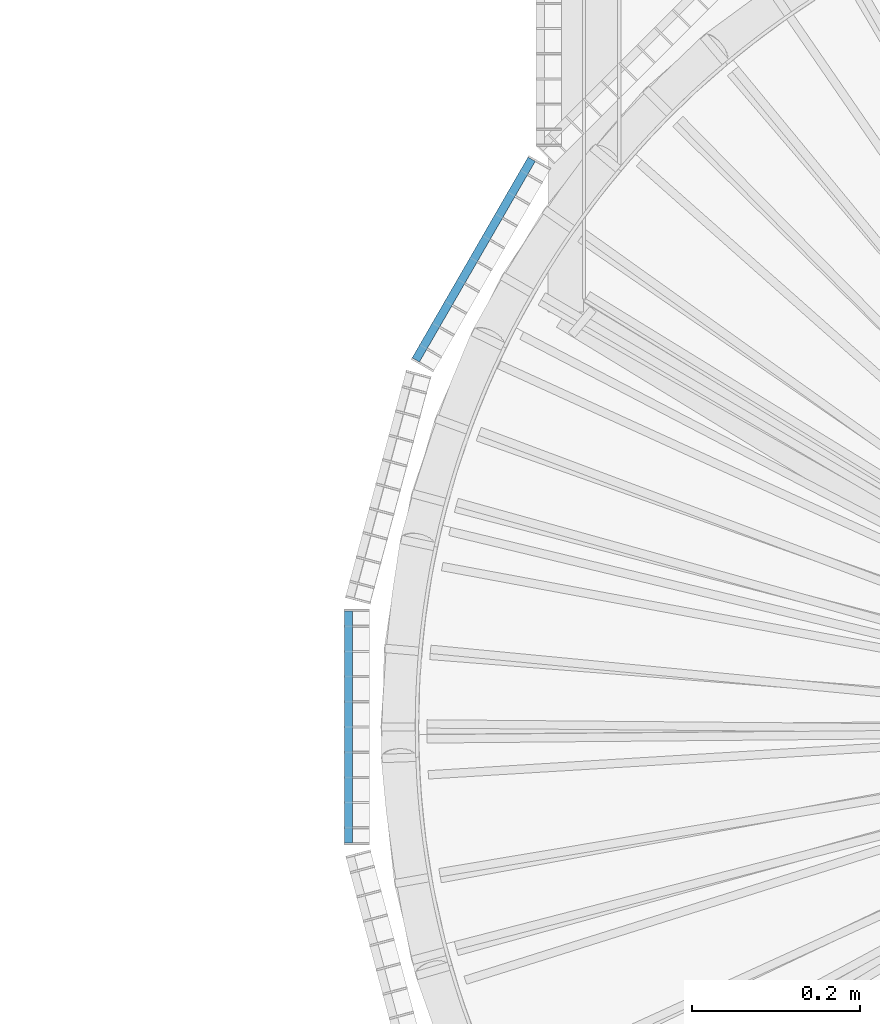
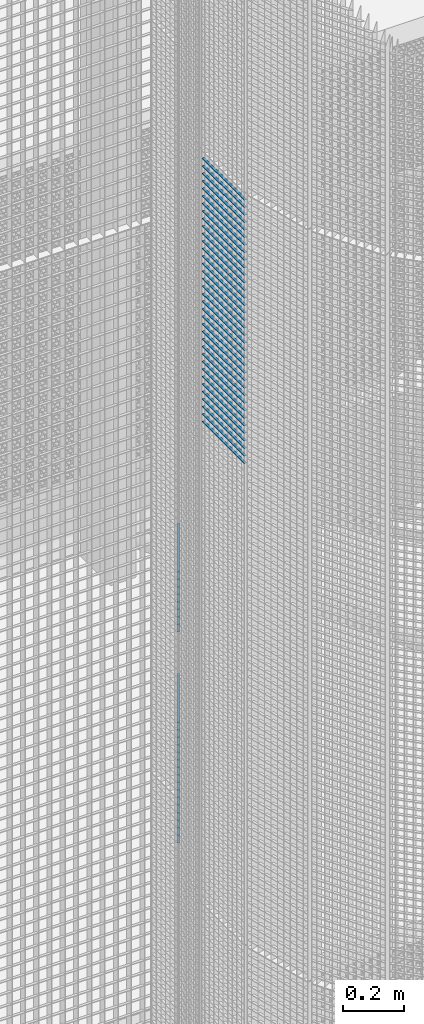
# One storey, part 199 of 1183: 62 beams, 2 elements without a shape of their own.
"""IFC2X3 building model written with IfcOpenShell, lengths in millimetres."""

from ifc_helpers import new_model, si_unit, frame, origin_with_axes, origin_2d_with_axis, place, context, subcontext, project, spatial, rectangle, extrude, material, type_object, element, aggregate, save


model = new_model("IFC2X3")

# Units and contexts
model_context = context("Model", 3, precision=1e-05, world=origin_with_axes())
body_context = subcontext(model_context, "Body", "Model", "MODEL_VIEW")
ifc_project = project(units=[si_unit("LENGTHUNIT", "METRE", prefix="MILLI"), si_unit("AREAUNIT", "SQUARE_METRE"), si_unit("VOLUMEUNIT", "CUBIC_METRE"), si_unit("MASSUNIT", "GRAM", prefix="KILO"), si_unit("TIMEUNIT", "SECOND"), si_unit("PLANEANGLEUNIT", "RADIAN"), si_unit("SOLIDANGLEUNIT", "STERADIAN"), si_unit("THERMODYNAMICTEMPERATUREUNIT", "DEGREE_CELSIUS"), si_unit("LUMINOUSINTENSITYUNIT", "LUMEN")], contexts=[model_context])

# Site, building, storey
site_placement = place(None, origin_with_axes())
site = spatial("IfcSite", under=ifc_project, at=site_placement, Name="Undefined", CompositionType="ELEMENT")
building_placement = place(site_placement, origin_with_axes())
building = spatial("IfcBuilding", under=site, at=building_placement, Name="Undefined", CompositionType="ELEMENT")
storey_placement = place(building_placement, origin_with_axes())
storey = spatial("IfcBuildingStorey", under=building, at=storey_placement, Name="Undefined", CompositionType="ELEMENT", Elevation=0.0)

# Assembly, beams
assembly_1_placement = place(storey_placement, origin_with_axes())
assembly_1 = element("IfcElementAssembly", 1, at=assembly_1_placement, inside=storey, Name="BORDURE", AssemblyPlace="NOTDEFINED", PredefinedType="NOTDEFINED")
ifc_material = material(Name="STEEL/S235JR")
beam_type = type_object("IfcBeamType", Name="PL2*10", PredefinedType="NOTDEFINED")
beam_1_placement = place(assembly_1_placement, frame((-895.303964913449, 676.248044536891, 9510.0), z_axis=(-0.866025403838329, 0.499999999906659, 0.0), x_axis=(-0.49999999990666, -0.866025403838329, 0.0)))
beam_1 = element("IfcBeam", 2, at=beam_1_placement, type_object=beam_type, material=ifc_material, Name="ENTRETOISE", context=body_context, shape_type="SweptSolid", body=[
    extrude(rectangle(XDim=2.0, YDim=10.0, at=origin_2d_with_axis()), frame((275.999999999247, 9.09494701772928e-13, 1.53210777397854e-14), z_axis=(-1.0, 0.0, 0.0), x_axis=(0.0, -1.0, 0.0)), (0.0, 0.0, 1.0), 276.0),
])
beam_2_placement = place(assembly_1_placement, frame((-895.303964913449, 676.248044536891, 9480.0), z_axis=(-0.866025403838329, 0.499999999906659, 0.0), x_axis=(-0.49999999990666, -0.866025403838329, 0.0)))
beam_2 = element("IfcBeam", 3, at=beam_2_placement, type_object=beam_type, material=ifc_material, Name="ENTRETOISE", context=body_context, shape_type="SweptSolid", body=[
    extrude(rectangle(XDim=2.0, YDim=10.0, at=origin_2d_with_axis()), frame((275.999999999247, 9.09494701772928e-13, 1.53210777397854e-14), z_axis=(-1.0, 0.0, 0.0), x_axis=(0.0, -1.0, 0.0)), (0.0, 0.0, 1.0), 276.0),
])
beam_3_placement = place(assembly_1_placement, frame((-895.303964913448, 676.248044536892, 9870.0), z_axis=(-0.866025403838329, 0.499999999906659, 0.0), x_axis=(-0.49999999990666, -0.866025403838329, 0.0)))
beam_3 = element("IfcBeam", 4, at=beam_3_placement, type_object=beam_type, material=ifc_material, Name="ENTRETOISE", context=body_context, shape_type="SweptSolid", body=[
    extrude(rectangle(XDim=2.0, YDim=10.0, at=origin_2d_with_axis()), frame((275.999999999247, 9.09494701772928e-13, 1.53210777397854e-14), z_axis=(-1.0, 0.0, 0.0), x_axis=(0.0, -1.0, 0.0)), (0.0, 0.0, 1.0), 276.0),
])
beam_4_placement = place(assembly_1_placement, frame((-895.303964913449, 676.248044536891, 9450.0), z_axis=(-0.866025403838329, 0.499999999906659, 0.0), x_axis=(-0.49999999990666, -0.866025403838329, 0.0)))
beam_4 = element("IfcBeam", 5, at=beam_4_placement, type_object=beam_type, material=ifc_material, Name="ENTRETOISE", context=body_context, shape_type="SweptSolid", body=[
    extrude(rectangle(XDim=2.0, YDim=10.0, at=origin_2d_with_axis()), frame((275.999999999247, 9.09494701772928e-13, 1.53210777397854e-14), z_axis=(-1.0, 0.0, 0.0), x_axis=(0.0, -1.0, 0.0)), (0.0, 0.0, 1.0), 276.0),
])
beam_5_placement = place(assembly_1_placement, frame((-895.303964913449, 676.248044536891, 9420.0), z_axis=(-0.866025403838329, 0.499999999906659, 0.0), x_axis=(-0.49999999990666, -0.866025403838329, 0.0)))
beam_5 = element("IfcBeam", 6, at=beam_5_placement, type_object=beam_type, material=ifc_material, Name="ENTRETOISE", context=body_context, shape_type="SweptSolid", body=[
    extrude(rectangle(XDim=2.0, YDim=10.0, at=origin_2d_with_axis()), frame((275.999999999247, 9.09494701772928e-13, 1.53210777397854e-14), z_axis=(-1.0, 0.0, 0.0), x_axis=(0.0, -1.0, 0.0)), (0.0, 0.0, 1.0), 276.0),
])
beam_6_placement = place(assembly_1_placement, frame((-895.303964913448, 676.248044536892, 9900.0), z_axis=(-0.866025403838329, 0.499999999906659, 0.0), x_axis=(-0.49999999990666, -0.866025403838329, 0.0)))
beam_6 = element("IfcBeam", 7, at=beam_6_placement, type_object=beam_type, material=ifc_material, Name="ENTRETOISE", context=body_context, shape_type="SweptSolid", body=[
    extrude(rectangle(XDim=2.0, YDim=10.0, at=origin_2d_with_axis()), frame((275.999999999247, 9.09494701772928e-13, 1.53210777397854e-14), z_axis=(-1.0, 0.0, 0.0), x_axis=(0.0, -1.0, 0.0)), (0.0, 0.0, 1.0), 276.0),
])
beam_7_placement = place(assembly_1_placement, frame((-895.30396491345, 676.248044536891, 9390.0), z_axis=(-0.866025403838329, 0.499999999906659, 0.0), x_axis=(-0.49999999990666, -0.866025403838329, 0.0)))
beam_7 = element("IfcBeam", 8, at=beam_7_placement, type_object=beam_type, material=ifc_material, Name="ENTRETOISE", context=body_context, shape_type="SweptSolid", body=[
    extrude(rectangle(XDim=2.0, YDim=10.0, at=origin_2d_with_axis()), frame((275.999999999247, 9.09494701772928e-13, 1.53210777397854e-14), z_axis=(-1.0, 0.0, 0.0), x_axis=(0.0, -1.0, 0.0)), (0.0, 0.0, 1.0), 276.0),
])
beam_8_placement = place(assembly_1_placement, frame((-895.303964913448, 676.248044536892, 9930.0), z_axis=(-0.866025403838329, 0.499999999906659, 0.0), x_axis=(-0.49999999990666, -0.866025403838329, 0.0)))
beam_8 = element("IfcBeam", 9, at=beam_8_placement, type_object=beam_type, material=ifc_material, Name="ENTRETOISE", context=body_context, shape_type="SweptSolid", body=[
    extrude(rectangle(XDim=2.0, YDim=10.0, at=origin_2d_with_axis()), frame((275.999999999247, 9.09494701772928e-13, 1.53210777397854e-14), z_axis=(-1.0, 0.0, 0.0), x_axis=(0.0, -1.0, 0.0)), (0.0, 0.0, 1.0), 276.0),
])
beam_9_placement = place(assembly_1_placement, frame((-895.30396491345, 676.248044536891, 9360.0), z_axis=(-0.866025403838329, 0.499999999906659, 0.0), x_axis=(-0.49999999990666, -0.866025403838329, 0.0)))
beam_9 = element("IfcBeam", 10, at=beam_9_placement, type_object=beam_type, material=ifc_material, Name="ENTRETOISE", context=body_context, shape_type="SweptSolid", body=[
    extrude(rectangle(XDim=2.0, YDim=10.0, at=origin_2d_with_axis()), frame((275.999999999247, 9.09494701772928e-13, 1.53210777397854e-14), z_axis=(-1.0, 0.0, 0.0), x_axis=(0.0, -1.0, 0.0)), (0.0, 0.0, 1.0), 276.0),
])
beam_10_placement = place(assembly_1_placement, frame((-895.303964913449, 676.248044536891, 9330.0), z_axis=(-0.866025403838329, 0.499999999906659, 0.0), x_axis=(-0.49999999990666, -0.866025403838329, 0.0)))
beam_10 = element("IfcBeam", 11, at=beam_10_placement, type_object=beam_type, material=ifc_material, Name="ENTRETOISE", context=body_context, shape_type="SweptSolid", body=[
    extrude(rectangle(XDim=2.0, YDim=10.0, at=origin_2d_with_axis()), frame((275.999999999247, 9.09494701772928e-13, 1.53210777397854e-14), z_axis=(-1.0, 0.0, 0.0), x_axis=(0.0, -1.0, 0.0)), (0.0, 0.0, 1.0), 276.0),
])
beam_11_placement = place(assembly_1_placement, frame((-895.303964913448, 676.248044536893, 9960.0), z_axis=(-0.866025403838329, 0.499999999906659, 0.0), x_axis=(-0.49999999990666, -0.866025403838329, 0.0)))
beam_11 = element("IfcBeam", 12, at=beam_11_placement, type_object=beam_type, material=ifc_material, Name="ENTRETOISE", context=body_context, shape_type="SweptSolid", body=[
    extrude(rectangle(XDim=2.0, YDim=10.0, at=origin_2d_with_axis()), frame((275.999999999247, 9.09494701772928e-13, 1.53210777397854e-14), z_axis=(-1.0, 0.0, 0.0), x_axis=(0.0, -1.0, 0.0)), (0.0, 0.0, 1.0), 276.0),
])
beam_12_placement = place(assembly_1_placement, frame((-895.303964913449, 676.248044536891, 9300.0), z_axis=(-0.866025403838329, 0.499999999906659, 0.0), x_axis=(-0.49999999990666, -0.866025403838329, 0.0)))
beam_12 = element("IfcBeam", 13, at=beam_12_placement, type_object=beam_type, material=ifc_material, Name="ENTRETOISE", context=body_context, shape_type="SweptSolid", body=[
    extrude(rectangle(XDim=2.0, YDim=10.0, at=origin_2d_with_axis()), frame((275.999999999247, 9.09494701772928e-13, 1.53210777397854e-14), z_axis=(-1.0, 0.0, 0.0), x_axis=(0.0, -1.0, 0.0)), (0.0, 0.0, 1.0), 276.0),
])
beam_13_placement = place(assembly_1_placement, frame((-895.303964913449, 676.248044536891, 9270.0), z_axis=(-0.866025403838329, 0.499999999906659, 0.0), x_axis=(-0.49999999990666, -0.866025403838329, 0.0)))
beam_13 = element("IfcBeam", 14, at=beam_13_placement, type_object=beam_type, material=ifc_material, Name="ENTRETOISE", context=body_context, shape_type="SweptSolid", body=[
    extrude(rectangle(XDim=2.0, YDim=10.0, at=origin_2d_with_axis()), frame((275.999999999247, 9.09494701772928e-13, 1.53210777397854e-14), z_axis=(-1.0, 0.0, 0.0), x_axis=(0.0, -1.0, 0.0)), (0.0, 0.0, 1.0), 276.0),
])
beam_14_placement = place(assembly_1_placement, frame((-895.303964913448, 676.248044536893, 9990.0), z_axis=(-0.866025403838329, 0.499999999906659, 0.0), x_axis=(-0.49999999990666, -0.866025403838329, 0.0)))
beam_14 = element("IfcBeam", 15, at=beam_14_placement, type_object=beam_type, material=ifc_material, Name="ENTRETOISE", context=body_context, shape_type="SweptSolid", body=[
    extrude(rectangle(XDim=2.0, YDim=10.0, at=origin_2d_with_axis()), frame((275.999999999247, 9.09494701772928e-13, 1.53210777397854e-14), z_axis=(-1.0, 0.0, 0.0), x_axis=(0.0, -1.0, 0.0)), (0.0, 0.0, 1.0), 276.0),
])
beam_15_placement = place(assembly_1_placement, frame((-895.303964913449, 676.24804453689, 9240.0), z_axis=(-0.866025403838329, 0.499999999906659, 0.0), x_axis=(-0.49999999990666, -0.866025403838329, 0.0)))
beam_15 = element("IfcBeam", 16, at=beam_15_placement, type_object=beam_type, material=ifc_material, Name="ENTRETOISE", context=body_context, shape_type="SweptSolid", body=[
    extrude(rectangle(XDim=2.0, YDim=10.0, at=origin_2d_with_axis()), frame((275.999999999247, 9.09494701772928e-13, 1.53210777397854e-14), z_axis=(-1.0, 0.0, 0.0), x_axis=(0.0, -1.0, 0.0)), (0.0, 0.0, 1.0), 276.0),
])
beam_16_placement = place(assembly_1_placement, frame((-895.303964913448, 676.248044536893, 10020.0), z_axis=(-0.866025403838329, 0.499999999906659, 0.0), x_axis=(-0.49999999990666, -0.866025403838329, 0.0)))
beam_16 = element("IfcBeam", 17, at=beam_16_placement, type_object=beam_type, material=ifc_material, Name="ENTRETOISE", context=body_context, shape_type="SweptSolid", body=[
    extrude(rectangle(XDim=2.0, YDim=10.0, at=origin_2d_with_axis()), frame((275.999999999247, 9.09494701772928e-13, 1.53210777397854e-14), z_axis=(-1.0, 0.0, 0.0), x_axis=(0.0, -1.0, 0.0)), (0.0, 0.0, 1.0), 276.0),
])
beam_17_placement = place(assembly_1_placement, frame((-895.303964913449, 676.24804453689, 9210.0), z_axis=(-0.866025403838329, 0.499999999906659, 0.0), x_axis=(-0.49999999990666, -0.866025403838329, 0.0)))
beam_17 = element("IfcBeam", 18, at=beam_17_placement, type_object=beam_type, material=ifc_material, Name="ENTRETOISE", context=body_context, shape_type="SweptSolid", body=[
    extrude(rectangle(XDim=2.0, YDim=10.0, at=origin_2d_with_axis()), frame((275.999999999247, 9.09494701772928e-13, 1.53210777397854e-14), z_axis=(-1.0, 0.0, 0.0), x_axis=(0.0, -1.0, 0.0)), (0.0, 0.0, 1.0), 276.0),
])
beam_18_placement = place(assembly_1_placement, frame((-895.30396491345, 676.24804453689, 9180.0), z_axis=(-0.866025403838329, 0.499999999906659, 0.0), x_axis=(-0.49999999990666, -0.866025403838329, 0.0)))
beam_18 = element("IfcBeam", 19, at=beam_18_placement, type_object=beam_type, material=ifc_material, Name="ENTRETOISE", context=body_context, shape_type="SweptSolid", body=[
    extrude(rectangle(XDim=2.0, YDim=10.0, at=origin_2d_with_axis()), frame((275.999999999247, 9.09494701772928e-13, 1.53210777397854e-14), z_axis=(-1.0, 0.0, 0.0), x_axis=(0.0, -1.0, 0.0)), (0.0, 0.0, 1.0), 276.0),
])
beam_19_placement = place(assembly_1_placement, frame((-895.303964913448, 676.248044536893, 10050.0), z_axis=(-0.866025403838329, 0.499999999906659, 0.0), x_axis=(-0.49999999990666, -0.866025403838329, 0.0)))
beam_19 = element("IfcBeam", 20, at=beam_19_placement, type_object=beam_type, material=ifc_material, Name="ENTRETOISE", context=body_context, shape_type="SweptSolid", body=[
    extrude(rectangle(XDim=2.0, YDim=10.0, at=origin_2d_with_axis()), frame((275.999999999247, 9.09494701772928e-13, 1.53210777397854e-14), z_axis=(-1.0, 0.0, 0.0), x_axis=(0.0, -1.0, 0.0)), (0.0, 0.0, 1.0), 276.0),
])
beam_20_placement = place(assembly_1_placement, frame((-895.30396491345, 676.24804453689, 9150.0), z_axis=(-0.866025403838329, 0.499999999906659, 0.0), x_axis=(-0.49999999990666, -0.866025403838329, 0.0)))
beam_20 = element("IfcBeam", 21, at=beam_20_placement, type_object=beam_type, material=ifc_material, Name="ENTRETOISE", context=body_context, shape_type="SweptSolid", body=[
    extrude(rectangle(XDim=2.0, YDim=10.0, at=origin_2d_with_axis()), frame((275.999999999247, 9.09494701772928e-13, 1.53210777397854e-14), z_axis=(-1.0, 0.0, 0.0), x_axis=(0.0, -1.0, 0.0)), (0.0, 0.0, 1.0), 276.0),
])
beam_21_placement = place(assembly_1_placement, frame((-895.30396491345, 676.24804453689, 9120.0), z_axis=(-0.866025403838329, 0.499999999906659, 0.0), x_axis=(-0.49999999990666, -0.866025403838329, 0.0)))
beam_21 = element("IfcBeam", 22, at=beam_21_placement, type_object=beam_type, material=ifc_material, Name="ENTRETOISE", context=body_context, shape_type="SweptSolid", body=[
    extrude(rectangle(XDim=2.0, YDim=10.0, at=origin_2d_with_axis()), frame((275.999999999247, 9.09494701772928e-13, 1.53210777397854e-14), z_axis=(-1.0, 0.0, 0.0), x_axis=(0.0, -1.0, 0.0)), (0.0, 0.0, 1.0), 276.0),
])
beam_22_placement = place(assembly_1_placement, frame((-895.303964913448, 676.248044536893, 10080.0), z_axis=(-0.866025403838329, 0.499999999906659, 0.0), x_axis=(-0.49999999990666, -0.866025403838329, 0.0)))
beam_22 = element("IfcBeam", 23, at=beam_22_placement, type_object=beam_type, material=ifc_material, Name="ENTRETOISE", context=body_context, shape_type="SweptSolid", body=[
    extrude(rectangle(XDim=2.0, YDim=10.0, at=origin_2d_with_axis()), frame((275.999999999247, 9.09494701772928e-13, 1.53210777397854e-14), z_axis=(-1.0, 0.0, 0.0), x_axis=(0.0, -1.0, 0.0)), (0.0, 0.0, 1.0), 276.0),
])
beam_23_placement = place(assembly_1_placement, frame((-895.30396491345, 676.24804453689, 9090.0), z_axis=(-0.866025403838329, 0.499999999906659, 0.0), x_axis=(-0.49999999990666, -0.866025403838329, 0.0)))
beam_23 = element("IfcBeam", 24, at=beam_23_placement, type_object=beam_type, material=ifc_material, Name="ENTRETOISE", context=body_context, shape_type="SweptSolid", body=[
    extrude(rectangle(XDim=2.0, YDim=10.0, at=origin_2d_with_axis()), frame((275.999999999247, 9.09494701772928e-13, 1.53210777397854e-14), z_axis=(-1.0, 0.0, 0.0), x_axis=(0.0, -1.0, 0.0)), (0.0, 0.0, 1.0), 276.0),
])
beam_24_placement = place(assembly_1_placement, frame((-895.30396491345, 676.24804453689, 9060.0), z_axis=(-0.866025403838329, 0.499999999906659, 0.0), x_axis=(-0.49999999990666, -0.866025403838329, 0.0)))
beam_24 = element("IfcBeam", 25, at=beam_24_placement, type_object=beam_type, material=ifc_material, Name="ENTRETOISE", context=body_context, shape_type="SweptSolid", body=[
    extrude(rectangle(XDim=2.0, YDim=10.0, at=origin_2d_with_axis()), frame((275.999999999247, 9.09494701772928e-13, 1.53210777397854e-14), z_axis=(-1.0, 0.0, 0.0), x_axis=(0.0, -1.0, 0.0)), (0.0, 0.0, 1.0), 276.0),
])
beam_25_placement = place(assembly_1_placement, frame((-895.303964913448, 676.248044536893, 10110.0), z_axis=(-0.866025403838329, 0.499999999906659, 0.0), x_axis=(-0.49999999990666, -0.866025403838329, 0.0)))
beam_25 = element("IfcBeam", 26, at=beam_25_placement, type_object=beam_type, material=ifc_material, Name="ENTRETOISE", context=body_context, shape_type="SweptSolid", body=[
    extrude(rectangle(XDim=2.0, YDim=10.0, at=origin_2d_with_axis()), frame((275.999999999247, 9.09494701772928e-13, 1.53210777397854e-14), z_axis=(-1.0, 0.0, 0.0), x_axis=(0.0, -1.0, 0.0)), (0.0, 0.0, 1.0), 276.0),
])
beam_26_placement = place(assembly_1_placement, frame((-895.30396491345, 676.248044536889, 9030.0), z_axis=(-0.866025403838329, 0.499999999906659, 0.0), x_axis=(-0.49999999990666, -0.866025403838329, 0.0)))
beam_26 = element("IfcBeam", 27, at=beam_26_placement, type_object=beam_type, material=ifc_material, Name="ENTRETOISE", context=body_context, shape_type="SweptSolid", body=[
    extrude(rectangle(XDim=2.0, YDim=10.0, at=origin_2d_with_axis()), frame((275.999999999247, 9.09494701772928e-13, 1.53210777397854e-14), z_axis=(-1.0, 0.0, 0.0), x_axis=(0.0, -1.0, 0.0)), (0.0, 0.0, 1.0), 276.0),
])
aggregate(assembly_1, [beam_1, beam_2, beam_3, beam_4, beam_5, beam_6, beam_7, beam_8, beam_9, beam_10, beam_11, beam_12, beam_13, beam_14, beam_15, beam_16, beam_17, beam_18, beam_19, beam_20, beam_21, beam_22, beam_23, beam_24, beam_25, beam_26])

assembly_2_placement = place(storey_placement, origin_with_axes())
assembly_2 = element("IfcElementAssembly", 28, at=assembly_2_placement, inside=storey, Name="BORDURE", AssemblyPlace="NOTDEFINED", PredefinedType="NOTDEFINED")
beam_27_placement = place(assembly_2_placement, frame((-1113.47999999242, 137.996003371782, 11970.0), z_axis=(-1.0, 0.0, 0.0), x_axis=(0.0, -1.0, 0.0)))
beam_27 = element("IfcBeam", 29, at=beam_27_placement, type_object=beam_type, material=ifc_material, Name="ENTRETOISE", context=body_context, shape_type="SweptSolid", body=[
    extrude(rectangle(XDim=2.0, YDim=10.0, at=origin_2d_with_axis()), frame((275.999999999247, 9.09494701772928e-13, 1.53210777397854e-14), z_axis=(-1.0, 0.0, 0.0), x_axis=(0.0, -1.0, 0.0)), (0.0, 0.0, 1.0), 276.0),
])
beam_28_placement = place(assembly_2_placement, frame((-1113.47999999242, 137.996003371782, 11940.0), z_axis=(-1.0, 0.0, 0.0), x_axis=(0.0, -1.0, 0.0)))
beam_28 = element("IfcBeam", 30, at=beam_28_placement, type_object=beam_type, material=ifc_material, Name="ENTRETOISE", context=body_context, shape_type="SweptSolid", body=[
    extrude(rectangle(XDim=2.0, YDim=10.0, at=origin_2d_with_axis()), frame((275.999999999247, 9.09494701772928e-13, 1.53210777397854e-14), z_axis=(-1.0, 0.0, 0.0), x_axis=(0.0, -1.0, 0.0)), (0.0, 0.0, 1.0), 276.0),
])
beam_29_placement = place(assembly_2_placement, frame((-1113.47999999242, 137.996003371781, 11910.0), z_axis=(-1.0, 0.0, 0.0), x_axis=(0.0, -1.0, 0.0)))
beam_29 = element("IfcBeam", 31, at=beam_29_placement, type_object=beam_type, material=ifc_material, Name="ENTRETOISE", context=body_context, shape_type="SweptSolid", body=[
    extrude(rectangle(XDim=2.0, YDim=10.0, at=origin_2d_with_axis()), frame((275.999999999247, 9.09494701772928e-13, 1.53210777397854e-14), z_axis=(-1.0, 0.0, 0.0), x_axis=(0.0, -1.0, 0.0)), (0.0, 0.0, 1.0), 276.0),
])
beam_30_placement = place(assembly_2_placement, frame((-1113.47999999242, 137.996003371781, 11880.0), z_axis=(-1.0, 0.0, 0.0), x_axis=(0.0, -1.0, 0.0)))
beam_30 = element("IfcBeam", 32, at=beam_30_placement, type_object=beam_type, material=ifc_material, Name="ENTRETOISE", context=body_context, shape_type="SweptSolid", body=[
    extrude(rectangle(XDim=2.0, YDim=10.0, at=origin_2d_with_axis()), frame((275.999999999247, 9.09494701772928e-13, 1.53210777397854e-14), z_axis=(-1.0, 0.0, 0.0), x_axis=(0.0, -1.0, 0.0)), (0.0, 0.0, 1.0), 276.0),
])
beam_31_placement = place(assembly_2_placement, frame((-1113.47999999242, 137.996003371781, 11850.0), z_axis=(-1.0, 0.0, 0.0), x_axis=(0.0, -1.0, 0.0)))
beam_31 = element("IfcBeam", 33, at=beam_31_placement, type_object=beam_type, material=ifc_material, Name="ENTRETOISE", context=body_context, shape_type="SweptSolid", body=[
    extrude(rectangle(XDim=2.0, YDim=10.0, at=origin_2d_with_axis()), frame((275.999999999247, 9.09494701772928e-13, 1.53210777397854e-14), z_axis=(-1.0, 0.0, 0.0), x_axis=(0.0, -1.0, 0.0)), (0.0, 0.0, 1.0), 276.0),
])
beam_32_placement = place(assembly_2_placement, frame((-1113.47999999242, 137.996003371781, 11820.0), z_axis=(-1.0, 0.0, 0.0), x_axis=(0.0, -1.0, 0.0)))
beam_32 = element("IfcBeam", 34, at=beam_32_placement, type_object=beam_type, material=ifc_material, Name="ENTRETOISE", context=body_context, shape_type="SweptSolid", body=[
    extrude(rectangle(XDim=2.0, YDim=10.0, at=origin_2d_with_axis()), frame((275.999999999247, 9.09494701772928e-13, 1.53210777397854e-14), z_axis=(-1.0, 0.0, 0.0), x_axis=(0.0, -1.0, 0.0)), (0.0, 0.0, 1.0), 276.0),
])
beam_33_placement = place(assembly_2_placement, frame((-1113.47999999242, 137.996003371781, 11790.0), z_axis=(-1.0, 0.0, 0.0), x_axis=(0.0, -1.0, 0.0)))
beam_33 = element("IfcBeam", 35, at=beam_33_placement, type_object=beam_type, material=ifc_material, Name="ENTRETOISE", context=body_context, shape_type="SweptSolid", body=[
    extrude(rectangle(XDim=2.0, YDim=10.0, at=origin_2d_with_axis()), frame((275.999999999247, 9.09494701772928e-13, 1.53210777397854e-14), z_axis=(-1.0, 0.0, 0.0), x_axis=(0.0, -1.0, 0.0)), (0.0, 0.0, 1.0), 276.0),
])
beam_34_placement = place(assembly_2_placement, frame((-1113.47999999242, 137.996003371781, 11760.0), z_axis=(-1.0, 0.0, 0.0), x_axis=(0.0, -1.0, 0.0)))
beam_34 = element("IfcBeam", 36, at=beam_34_placement, type_object=beam_type, material=ifc_material, Name="ENTRETOISE", context=body_context, shape_type="SweptSolid", body=[
    extrude(rectangle(XDim=2.0, YDim=10.0, at=origin_2d_with_axis()), frame((275.999999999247, 9.09494701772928e-13, 1.53210777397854e-14), z_axis=(-1.0, 0.0, 0.0), x_axis=(0.0, -1.0, 0.0)), (0.0, 0.0, 1.0), 276.0),
])
beam_35_placement = place(assembly_2_placement, frame((-1113.47999999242, 137.996003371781, 11730.0), z_axis=(-1.0, 0.0, 0.0), x_axis=(0.0, -1.0, 0.0)))
beam_35 = element("IfcBeam", 37, at=beam_35_placement, type_object=beam_type, material=ifc_material, Name="ENTRETOISE", context=body_context, shape_type="SweptSolid", body=[
    extrude(rectangle(XDim=2.0, YDim=10.0, at=origin_2d_with_axis()), frame((275.999999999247, 9.09494701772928e-13, 1.53210777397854e-14), z_axis=(-1.0, 0.0, 0.0), x_axis=(0.0, -1.0, 0.0)), (0.0, 0.0, 1.0), 276.0),
])
beam_36_placement = place(assembly_2_placement, frame((-1113.47999999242, 137.996003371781, 11700.0), z_axis=(-1.0, 0.0, 0.0), x_axis=(0.0, -1.0, 0.0)))
beam_36 = element("IfcBeam", 38, at=beam_36_placement, type_object=beam_type, material=ifc_material, Name="ENTRETOISE", context=body_context, shape_type="SweptSolid", body=[
    extrude(rectangle(XDim=2.0, YDim=10.0, at=origin_2d_with_axis()), frame((275.999999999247, 9.09494701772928e-13, 1.53210777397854e-14), z_axis=(-1.0, 0.0, 0.0), x_axis=(0.0, -1.0, 0.0)), (0.0, 0.0, 1.0), 276.0),
])
beam_37_placement = place(assembly_2_placement, frame((-1113.47999999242, 137.996003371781, 11670.0), z_axis=(-1.0, 0.0, 0.0), x_axis=(0.0, -1.0, 0.0)))
beam_37 = element("IfcBeam", 39, at=beam_37_placement, type_object=beam_type, material=ifc_material, Name="ENTRETOISE", context=body_context, shape_type="SweptSolid", body=[
    extrude(rectangle(XDim=2.0, YDim=10.0, at=origin_2d_with_axis()), frame((275.999999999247, 9.09494701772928e-13, 1.53210777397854e-14), z_axis=(-1.0, 0.0, 0.0), x_axis=(0.0, -1.0, 0.0)), (0.0, 0.0, 1.0), 276.0),
])
beam_38_placement = place(assembly_2_placement, frame((-1113.47999999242, 137.99600337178, 11640.0), z_axis=(-1.0, 0.0, 0.0), x_axis=(0.0, -1.0, 0.0)))
beam_38 = element("IfcBeam", 40, at=beam_38_placement, type_object=beam_type, material=ifc_material, Name="ENTRETOISE", context=body_context, shape_type="SweptSolid", body=[
    extrude(rectangle(XDim=2.0, YDim=10.0, at=origin_2d_with_axis()), frame((275.999999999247, 9.09494701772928e-13, 1.53210777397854e-14), z_axis=(-1.0, 0.0, 0.0), x_axis=(0.0, -1.0, 0.0)), (0.0, 0.0, 1.0), 276.0),
])
beam_39_placement = place(assembly_2_placement, frame((-1113.47999999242, 137.99600337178, 11610.0), z_axis=(-1.0, 0.0, 0.0), x_axis=(0.0, -1.0, 0.0)))
beam_39 = element("IfcBeam", 41, at=beam_39_placement, type_object=beam_type, material=ifc_material, Name="ENTRETOISE", context=body_context, shape_type="SweptSolid", body=[
    extrude(rectangle(XDim=2.0, YDim=10.0, at=origin_2d_with_axis()), frame((275.999999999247, 9.09494701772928e-13, 1.53210777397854e-14), z_axis=(-1.0, 0.0, 0.0), x_axis=(0.0, -1.0, 0.0)), (0.0, 0.0, 1.0), 276.0),
])
beam_40_placement = place(assembly_2_placement, frame((-1113.47999999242, 137.99600337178, 11580.0), z_axis=(-1.0, 0.0, 0.0), x_axis=(0.0, -1.0, 0.0)))
beam_40 = element("IfcBeam", 42, at=beam_40_placement, type_object=beam_type, material=ifc_material, Name="ENTRETOISE", context=body_context, shape_type="SweptSolid", body=[
    extrude(rectangle(XDim=2.0, YDim=10.0, at=origin_2d_with_axis()), frame((275.999999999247, 9.09494701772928e-13, 1.53210777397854e-14), z_axis=(-1.0, 0.0, 0.0), x_axis=(0.0, -1.0, 0.0)), (0.0, 0.0, 1.0), 276.0),
])
beam_41_placement = place(assembly_2_placement, frame((-1113.47999999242, 137.99600337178, 11550.0), z_axis=(-1.0, 0.0, 0.0), x_axis=(0.0, -1.0, 0.0)))
beam_41 = element("IfcBeam", 43, at=beam_41_placement, type_object=beam_type, material=ifc_material, Name="ENTRETOISE", context=body_context, shape_type="SweptSolid", body=[
    extrude(rectangle(XDim=2.0, YDim=10.0, at=origin_2d_with_axis()), frame((275.999999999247, 9.09494701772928e-13, 1.53210777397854e-14), z_axis=(-1.0, 0.0, 0.0), x_axis=(0.0, -1.0, 0.0)), (0.0, 0.0, 1.0), 276.0),
])
beam_42_placement = place(assembly_2_placement, frame((-1113.47999999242, 137.99600337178, 11520.0), z_axis=(-1.0, 0.0, 0.0), x_axis=(0.0, -1.0, 0.0)))
beam_42 = element("IfcBeam", 44, at=beam_42_placement, type_object=beam_type, material=ifc_material, Name="ENTRETOISE", context=body_context, shape_type="SweptSolid", body=[
    extrude(rectangle(XDim=2.0, YDim=10.0, at=origin_2d_with_axis()), frame((275.999999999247, 9.09494701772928e-13, 1.53210777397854e-14), z_axis=(-1.0, 0.0, 0.0), x_axis=(0.0, -1.0, 0.0)), (0.0, 0.0, 1.0), 276.0),
])
beam_43_placement = place(assembly_2_placement, frame((-1113.47999999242, 137.99600337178, 11490.0), z_axis=(-1.0, 0.0, 0.0), x_axis=(0.0, -1.0, 0.0)))
beam_43 = element("IfcBeam", 45, at=beam_43_placement, type_object=beam_type, material=ifc_material, Name="ENTRETOISE", context=body_context, shape_type="SweptSolid", body=[
    extrude(rectangle(XDim=2.0, YDim=10.0, at=origin_2d_with_axis()), frame((275.999999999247, 9.09494701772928e-13, 1.53210777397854e-14), z_axis=(-1.0, 0.0, 0.0), x_axis=(0.0, -1.0, 0.0)), (0.0, 0.0, 1.0), 276.0),
])
beam_44_placement = place(assembly_2_placement, frame((-1113.47999999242, 137.99600337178, 11460.0), z_axis=(-1.0, 0.0, 0.0), x_axis=(0.0, -1.0, 0.0)))
beam_44 = element("IfcBeam", 46, at=beam_44_placement, type_object=beam_type, material=ifc_material, Name="ENTRETOISE", context=body_context, shape_type="SweptSolid", body=[
    extrude(rectangle(XDim=2.0, YDim=10.0, at=origin_2d_with_axis()), frame((275.999999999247, 9.09494701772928e-13, 1.53210777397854e-14), z_axis=(-1.0, 0.0, 0.0), x_axis=(0.0, -1.0, 0.0)), (0.0, 0.0, 1.0), 276.0),
])
beam_45_placement = place(assembly_2_placement, frame((-1113.47999999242, 137.99600337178, 11430.0), z_axis=(-1.0, 0.0, 0.0), x_axis=(0.0, -1.0, 0.0)))
beam_45 = element("IfcBeam", 47, at=beam_45_placement, type_object=beam_type, material=ifc_material, Name="ENTRETOISE", context=body_context, shape_type="SweptSolid", body=[
    extrude(rectangle(XDim=2.0, YDim=10.0, at=origin_2d_with_axis()), frame((275.999999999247, 9.09494701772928e-13, 1.53210777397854e-14), z_axis=(-1.0, 0.0, 0.0), x_axis=(0.0, -1.0, 0.0)), (0.0, 0.0, 1.0), 276.0),
])
beam_46_placement = place(assembly_2_placement, frame((-1113.47999999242, 137.99600337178, 11400.0), z_axis=(-1.0, 0.0, 0.0), x_axis=(0.0, -1.0, 0.0)))
beam_46 = element("IfcBeam", 48, at=beam_46_placement, type_object=beam_type, material=ifc_material, Name="ENTRETOISE", context=body_context, shape_type="SweptSolid", body=[
    extrude(rectangle(XDim=2.0, YDim=10.0, at=origin_2d_with_axis()), frame((275.999999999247, 9.09494701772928e-13, 1.53210777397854e-14), z_axis=(-1.0, 0.0, 0.0), x_axis=(0.0, -1.0, 0.0)), (0.0, 0.0, 1.0), 276.0),
])
beam_47_placement = place(assembly_2_placement, frame((-1113.47999999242, 137.996003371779, 11370.0), z_axis=(-1.0, 0.0, 0.0), x_axis=(0.0, -1.0, 0.0)))
beam_47 = element("IfcBeam", 49, at=beam_47_placement, type_object=beam_type, material=ifc_material, Name="ENTRETOISE", context=body_context, shape_type="SweptSolid", body=[
    extrude(rectangle(XDim=2.0, YDim=10.0, at=origin_2d_with_axis()), frame((275.999999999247, 9.09494701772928e-13, 1.53210777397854e-14), z_axis=(-1.0, 0.0, 0.0), x_axis=(0.0, -1.0, 0.0)), (0.0, 0.0, 1.0), 276.0),
])
beam_48_placement = place(assembly_2_placement, frame((-1113.47999999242, 137.996003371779, 11340.0), z_axis=(-1.0, 0.0, 0.0), x_axis=(0.0, -1.0, 0.0)))
beam_48 = element("IfcBeam", 50, at=beam_48_placement, type_object=beam_type, material=ifc_material, Name="ENTRETOISE", context=body_context, shape_type="SweptSolid", body=[
    extrude(rectangle(XDim=2.0, YDim=10.0, at=origin_2d_with_axis()), frame((275.999999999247, 9.09494701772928e-13, 1.53210777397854e-14), z_axis=(-1.0, 0.0, 0.0), x_axis=(0.0, -1.0, 0.0)), (0.0, 0.0, 1.0), 276.0),
])
beam_49_placement = place(assembly_2_placement, frame((-1113.47999999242, 137.996003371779, 11310.0), z_axis=(-1.0, 0.0, 0.0), x_axis=(0.0, -1.0, 0.0)))
beam_49 = element("IfcBeam", 51, at=beam_49_placement, type_object=beam_type, material=ifc_material, Name="ENTRETOISE", context=body_context, shape_type="SweptSolid", body=[
    extrude(rectangle(XDim=2.0, YDim=10.0, at=origin_2d_with_axis()), frame((275.999999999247, 9.09494701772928e-13, 1.53210777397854e-14), z_axis=(-1.0, 0.0, 0.0), x_axis=(0.0, -1.0, 0.0)), (0.0, 0.0, 1.0), 276.0),
])
beam_50_placement = place(assembly_2_placement, frame((-1113.47999999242, 137.996003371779, 11280.0), z_axis=(-1.0, 0.0, 0.0), x_axis=(0.0, -1.0, 0.0)))
beam_50 = element("IfcBeam", 52, at=beam_50_placement, type_object=beam_type, material=ifc_material, Name="ENTRETOISE", context=body_context, shape_type="SweptSolid", body=[
    extrude(rectangle(XDim=2.0, YDim=10.0, at=origin_2d_with_axis()), frame((275.999999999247, 9.09494701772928e-13, 1.53210777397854e-14), z_axis=(-1.0, 0.0, 0.0), x_axis=(0.0, -1.0, 0.0)), (0.0, 0.0, 1.0), 276.0),
])
beam_51_placement = place(assembly_2_placement, frame((-1113.47999999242, 137.996003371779, 11250.0), z_axis=(-1.0, 0.0, 0.0), x_axis=(0.0, -1.0, 0.0)))
beam_51 = element("IfcBeam", 53, at=beam_51_placement, type_object=beam_type, material=ifc_material, Name="ENTRETOISE", context=body_context, shape_type="SweptSolid", body=[
    extrude(rectangle(XDim=2.0, YDim=10.0, at=origin_2d_with_axis()), frame((275.999999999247, 9.09494701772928e-13, 1.53210777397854e-14), z_axis=(-1.0, 0.0, 0.0), x_axis=(0.0, -1.0, 0.0)), (0.0, 0.0, 1.0), 276.0),
])
beam_52_placement = place(assembly_2_placement, frame((-1113.47999999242, 137.996003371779, 11220.0), z_axis=(-1.0, 0.0, 0.0), x_axis=(0.0, -1.0, 0.0)))
beam_52 = element("IfcBeam", 54, at=beam_52_placement, type_object=beam_type, material=ifc_material, Name="ENTRETOISE", context=body_context, shape_type="SweptSolid", body=[
    extrude(rectangle(XDim=2.0, YDim=10.0, at=origin_2d_with_axis()), frame((275.999999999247, 9.09494701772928e-13, 1.53210777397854e-14), z_axis=(-1.0, 0.0, 0.0), x_axis=(0.0, -1.0, 0.0)), (0.0, 0.0, 1.0), 276.0),
])
beam_53_placement = place(assembly_2_placement, frame((-1113.47999999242, 137.996003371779, 11190.0), z_axis=(-1.0, 0.0, 0.0), x_axis=(0.0, -1.0, 0.0)))
beam_53 = element("IfcBeam", 55, at=beam_53_placement, type_object=beam_type, material=ifc_material, Name="ENTRETOISE", context=body_context, shape_type="SweptSolid", body=[
    extrude(rectangle(XDim=2.0, YDim=10.0, at=origin_2d_with_axis()), frame((275.999999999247, 9.09494701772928e-13, 1.53210777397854e-14), z_axis=(-1.0, 0.0, 0.0), x_axis=(0.0, -1.0, 0.0)), (0.0, 0.0, 1.0), 276.0),
])
beam_54_placement = place(assembly_2_placement, frame((-1113.47999999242, 137.996003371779, 11160.0), z_axis=(-1.0, 0.0, 0.0), x_axis=(0.0, -1.0, 0.0)))
beam_54 = element("IfcBeam", 56, at=beam_54_placement, type_object=beam_type, material=ifc_material, Name="ENTRETOISE", context=body_context, shape_type="SweptSolid", body=[
    extrude(rectangle(XDim=2.0, YDim=10.0, at=origin_2d_with_axis()), frame((275.999999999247, 9.09494701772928e-13, 1.53210777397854e-14), z_axis=(-1.0, 0.0, 0.0), x_axis=(0.0, -1.0, 0.0)), (0.0, 0.0, 1.0), 276.0),
])
beam_55_placement = place(assembly_2_placement, frame((-1113.47999999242, 137.996003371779, 11130.0), z_axis=(-1.0, 0.0, 0.0), x_axis=(0.0, -1.0, 0.0)))
beam_55 = element("IfcBeam", 57, at=beam_55_placement, type_object=beam_type, material=ifc_material, Name="ENTRETOISE", context=body_context, shape_type="SweptSolid", body=[
    extrude(rectangle(XDim=2.0, YDim=10.0, at=origin_2d_with_axis()), frame((275.999999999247, 9.09494701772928e-13, 1.53210777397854e-14), z_axis=(-1.0, 0.0, 0.0), x_axis=(0.0, -1.0, 0.0)), (0.0, 0.0, 1.0), 276.0),
])
beam_56_placement = place(assembly_2_placement, frame((-1113.47999999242, 137.996003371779, 11100.0), z_axis=(-1.0, 0.0, 0.0), x_axis=(0.0, -1.0, 0.0)))
beam_56 = element("IfcBeam", 58, at=beam_56_placement, type_object=beam_type, material=ifc_material, Name="ENTRETOISE", context=body_context, shape_type="SweptSolid", body=[
    extrude(rectangle(XDim=2.0, YDim=10.0, at=origin_2d_with_axis()), frame((275.999999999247, 9.09494701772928e-13, 1.53210777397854e-14), z_axis=(-1.0, 0.0, 0.0), x_axis=(0.0, -1.0, 0.0)), (0.0, 0.0, 1.0), 276.0),
])
beam_57_placement = place(assembly_2_placement, frame((-1113.47999999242, 137.996003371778, 11070.0), z_axis=(-1.0, 0.0, 0.0), x_axis=(0.0, -1.0, 0.0)))
beam_57 = element("IfcBeam", 59, at=beam_57_placement, type_object=beam_type, material=ifc_material, Name="ENTRETOISE", context=body_context, shape_type="SweptSolid", body=[
    extrude(rectangle(XDim=2.0, YDim=10.0, at=origin_2d_with_axis()), frame((275.999999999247, 9.09494701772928e-13, 1.53210777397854e-14), z_axis=(-1.0, 0.0, 0.0), x_axis=(0.0, -1.0, 0.0)), (0.0, 0.0, 1.0), 276.0),
])
beam_58_placement = place(assembly_2_placement, frame((-1113.47999999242, 137.996003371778, 11040.0), z_axis=(-1.0, 0.0, 0.0), x_axis=(0.0, -1.0, 0.0)))
beam_58 = element("IfcBeam", 60, at=beam_58_placement, type_object=beam_type, material=ifc_material, Name="ENTRETOISE", context=body_context, shape_type="SweptSolid", body=[
    extrude(rectangle(XDim=2.0, YDim=10.0, at=origin_2d_with_axis()), frame((275.999999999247, 9.09494701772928e-13, 1.53210777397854e-14), z_axis=(-1.0, 0.0, 0.0), x_axis=(0.0, -1.0, 0.0)), (0.0, 0.0, 1.0), 276.0),
])
beam_59_placement = place(assembly_2_placement, frame((-1113.47999999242, 137.996003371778, 11010.0), z_axis=(-1.0, 0.0, 0.0), x_axis=(0.0, -1.0, 0.0)))
beam_59 = element("IfcBeam", 61, at=beam_59_placement, type_object=beam_type, material=ifc_material, Name="ENTRETOISE", context=body_context, shape_type="SweptSolid", body=[
    extrude(rectangle(XDim=2.0, YDim=10.0, at=origin_2d_with_axis()), frame((275.999999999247, 9.09494701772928e-13, 1.53210777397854e-14), z_axis=(-1.0, 0.0, 0.0), x_axis=(0.0, -1.0, 0.0)), (0.0, 0.0, 1.0), 276.0),
])
beam_60_placement = place(assembly_2_placement, frame((-1113.47999999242, 137.996003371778, 10980.0), z_axis=(-1.0, 0.0, 0.0), x_axis=(0.0, -1.0, 0.0)))
beam_60 = element("IfcBeam", 62, at=beam_60_placement, type_object=beam_type, material=ifc_material, Name="ENTRETOISE", context=body_context, shape_type="SweptSolid", body=[
    extrude(rectangle(XDim=2.0, YDim=10.0, at=origin_2d_with_axis()), frame((275.999999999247, 9.09494701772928e-13, 1.53210777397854e-14), z_axis=(-1.0, 0.0, 0.0), x_axis=(0.0, -1.0, 0.0)), (0.0, 0.0, 1.0), 276.0),
])
beam_61_placement = place(assembly_2_placement, frame((-1113.47999999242, 137.996003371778, 10950.0), z_axis=(-1.0, 0.0, 0.0), x_axis=(0.0, -1.0, 0.0)))
beam_61 = element("IfcBeam", 63, at=beam_61_placement, type_object=beam_type, material=ifc_material, Name="ENTRETOISE", context=body_context, shape_type="SweptSolid", body=[
    extrude(rectangle(XDim=2.0, YDim=10.0, at=origin_2d_with_axis()), frame((275.999999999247, 9.09494701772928e-13, 1.53210777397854e-14), z_axis=(-1.0, 0.0, 0.0), x_axis=(0.0, -1.0, 0.0)), (0.0, 0.0, 1.0), 276.0),
])
beam_62_placement = place(assembly_2_placement, frame((-1113.47999999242, 137.996003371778, 10920.0), z_axis=(-1.0, 0.0, 0.0), x_axis=(0.0, -1.0, 0.0)))
beam_62 = element("IfcBeam", 64, at=beam_62_placement, type_object=beam_type, material=ifc_material, Name="ENTRETOISE", context=body_context, shape_type="SweptSolid", body=[
    extrude(rectangle(XDim=2.0, YDim=10.0, at=origin_2d_with_axis()), frame((275.999999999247, 9.09494701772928e-13, 1.53210777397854e-14), z_axis=(-1.0, 0.0, 0.0), x_axis=(0.0, -1.0, 0.0)), (0.0, 0.0, 1.0), 276.0),
])
aggregate(assembly_2, [beam_27, beam_28, beam_29, beam_30, beam_31, beam_32, beam_33, beam_34, beam_35, beam_36, beam_37, beam_38, beam_39, beam_40, beam_41, beam_42, beam_43, beam_44, beam_45, beam_46, beam_47, beam_48, beam_49, beam_50, beam_51, beam_52, beam_53, beam_54, beam_55, beam_56, beam_57, beam_58, beam_59, beam_60, beam_61, beam_62])

save(model, "model.ifc")
